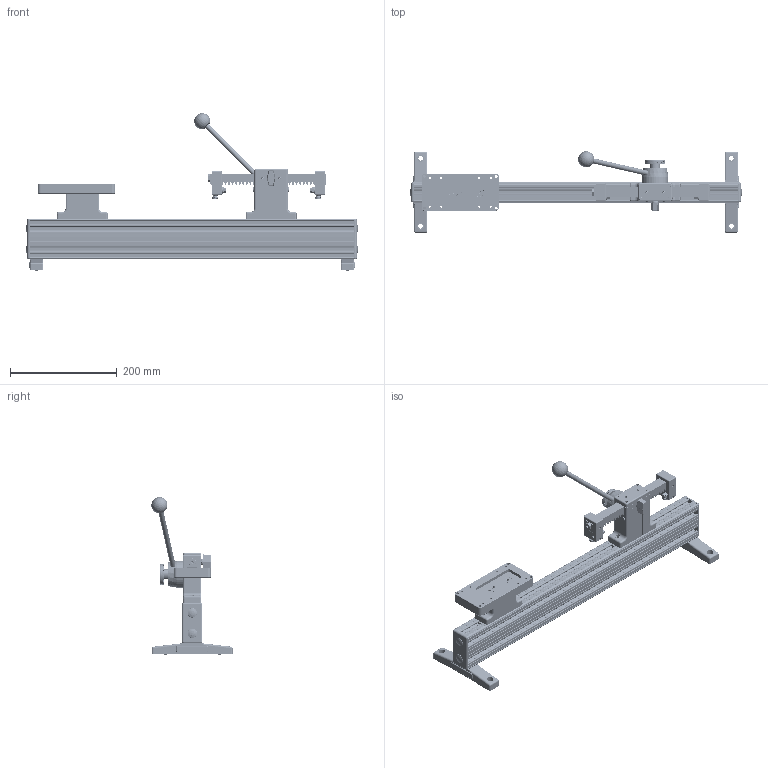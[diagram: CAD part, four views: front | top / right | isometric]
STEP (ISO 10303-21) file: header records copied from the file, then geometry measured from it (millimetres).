
FILE_DESCRIPTION((''),'2;1');
FILE_NAME('F:\CAD files\Itr\3D MARKETING MODELS\MANUAL TEST STANDS\TSA750\TSA750H.stp','2017-06-21T14:28:05',('mlampen'),(''),'Autodesk Inventor 2010','Autodesk Inventor 2010','');
FILE_SCHEMA(('AUTOMOTIVE_DESIGN { 1 0 10303 214 1 1 1 1 }'));
Length unit declared in the file: inch
Products named in the file (4): Assembly1; Part2; Part4; Part6
Assembly tree (3 placements, depth 2):
  Assembly1
    Part2
    Part4
    Part6
Bounding box: 621.18 x 152.03 x 294.83 mm (x, y, z)
Volume: 2300884.7 mm3; surface area: 545016.2 mm2
Topology: 15 solids, 26 shells, 7390 faces, 19820 edges, 12470 vertices
Faces by surface type: plane 4135, cylinder 2582, cone 407, bspline 168, sphere 66, torus 32
Full cylindrical faces by diameter (mm): 3.505 x40, 3.556 x20, 3.81 x12, 4.039 x8, 4.166 x1, 4.737 x1, 4.75 x1, 4.763 x1, 4.826 x68, 5.031 x1, 5.08 x2, 5.207 x4, 5.613 x2, 5.74 x15, 6.147 x1, 6.35 x39, 6.528 x3, 6.553 x3, 7.112 x4, 7.137 x2, 7.214 x2, 7.938 x16, 8.331 x4, 8.382 x4, 8.636 x4, 9.347 x1, 9.525 x9, 9.652 x2, 10.16 x4, 10.668 x4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
Entity records: 265031 total; most frequent: CARTESIAN_POINT 87878, DIRECTION 38883, ORIENTED_EDGE 37972, EDGE_CURVE 18986, AXIS2_PLACEMENT_3D 16584, VERTEX_POINT 12131, EDGE_LOOP 7793, FACE_OUTER_BOUND 7234
